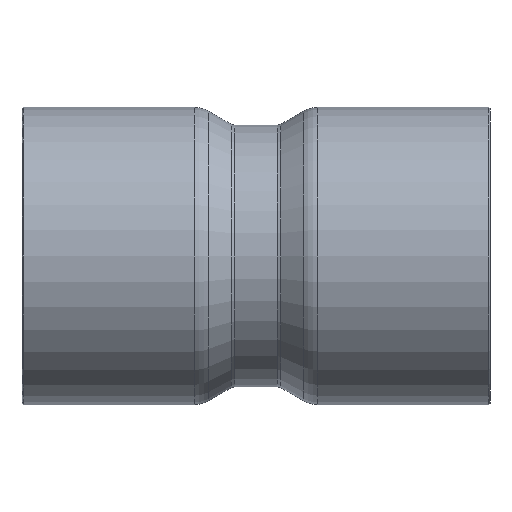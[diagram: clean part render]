
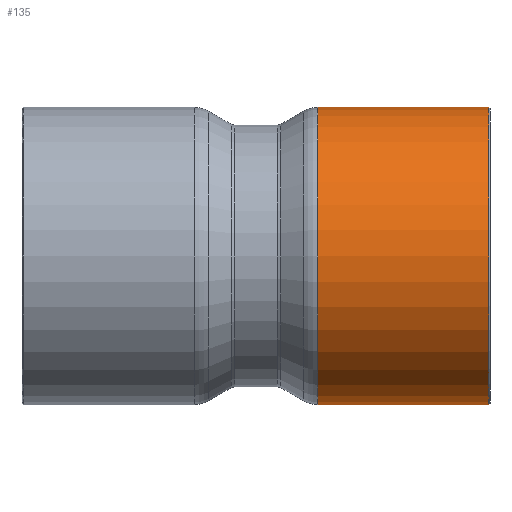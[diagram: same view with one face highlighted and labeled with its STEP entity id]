
A CAD part, front view. The second image highlights one B-rep face of the part: STEP entity #135.
In plain terms, the highlighted cylindrical face has radius 19.85 mm (diameter 39.7 mm), a full revolution.
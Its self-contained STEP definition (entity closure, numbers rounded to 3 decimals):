
#73=CARTESIAN_POINT('',(31.05,19.85,0.));
#74=VERTEX_POINT('',#73);
#75=CARTESIAN_POINT('',(31.05,0.0,0.0));
#76=DIRECTION('',(1.0,0.0,0.0));
#77=DIRECTION('',(0.0,-1.0,0.0));
#78=AXIS2_PLACEMENT_3D('',#75,#76,#77);
#79=CIRCLE('',#78,19.85);
#80=EDGE_CURVE('',#74,#74,#79,.T.);
#116=CARTESIAN_POINT('',(19.748,0.0,0.0));
#117=DIRECTION('',(1.0,0.0,0.0));
#118=DIRECTION('',(0.0,1.0,0.0));
#119=AXIS2_PLACEMENT_3D('',#116,#117,#118);
#120=CYLINDRICAL_SURFACE('',#119,19.85);
#121=CARTESIAN_POINT('',(8.246,19.85,0.0));
#122=VERTEX_POINT('',#121);
#123=CARTESIAN_POINT('',(8.246,0.0,0.0));
#124=DIRECTION('',(1.0,0.0,0.0));
#125=DIRECTION('',(0.0,1.0,0.0));
#126=AXIS2_PLACEMENT_3D('',#123,#124,#125);
#127=CIRCLE('',#126,19.85);
#128=EDGE_CURVE('',#122,#122,#127,.T.);
#129=ORIENTED_EDGE('',*,*,#128,.T.);
#130=EDGE_LOOP('',(#129));
#131=FACE_OUTER_BOUND('',#130,.T.);
#132=ORIENTED_EDGE('',*,*,#80,.F.);
#133=EDGE_LOOP('',(#132));
#134=FACE_BOUND('',#133,.T.);
#135=ADVANCED_FACE('',(#131,#134),#120,.T.);
